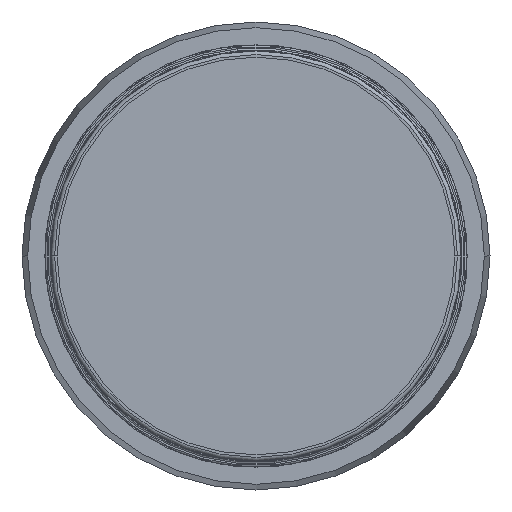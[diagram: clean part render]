
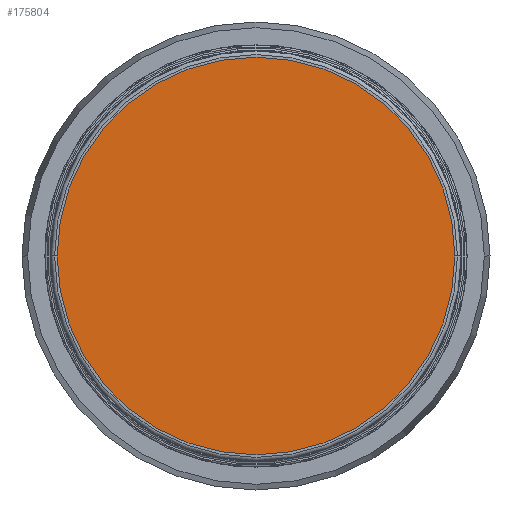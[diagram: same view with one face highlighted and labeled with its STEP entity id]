
A CAD part, front view. The second image highlights one B-rep face of the part: STEP entity #175804.
In plain terms, the highlighted planar face has unit normal (0, -1, 0).
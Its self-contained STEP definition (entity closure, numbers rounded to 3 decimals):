
#7428 = CIRCLE ( 'NONE', #112575, 522.579 ) ;
#11749 = EDGE_CURVE ( 'NONE', #134778, #73715, #124022, .T. ) ;
#43082 = DIRECTION ( 'NONE',  ( 0., -1., 0. ) ) ;
#53280 = CARTESIAN_POINT ( 'NONE',  ( 0., 0., 0. ) ) ;
#67366 = DIRECTION ( 'NONE',  ( 0., 0., 1. ) ) ;
#73715 = VERTEX_POINT ( 'NONE', #164149 ) ;
#81653 = CARTESIAN_POINT ( 'NONE',  ( 529.221, 0., -500000. ) ) ;
#89487 = ORIENTED_EDGE ( 'NONE', *, *, #174336, .T. ) ;
#95617 = DIRECTION ( 'NONE',  ( 0., 0., -1. ) ) ;
#108988 = PLANE ( 'NONE',  #156556 ) ;
#112575 = AXIS2_PLACEMENT_3D ( 'NONE', #126740, #43082, #140766 ) ;
#115753 = AXIS2_PLACEMENT_3D ( 'NONE', #53280, #150966, #67366 ) ;
#116193 = FACE_OUTER_BOUND ( 'NONE', #138624, .T. ) ;
#124022 = CIRCLE ( 'NONE', #115753, 522.579 ) ;
#126740 = CARTESIAN_POINT ( 'NONE',  ( 0., 0., 0. ) ) ;
#132742 = CARTESIAN_POINT ( 'NONE',  ( 522.579, 0., 0. ) ) ;
#133148 = ORIENTED_EDGE ( 'NONE', *, *, #11749, .T. ) ;
#134778 = VERTEX_POINT ( 'NONE', #132742 ) ;
#138624 = EDGE_LOOP ( 'NONE', ( #133148, #89487 ) ) ;
#140766 = DIRECTION ( 'NONE',  ( 0., 0., 1. ) ) ;
#150966 = DIRECTION ( 'NONE',  ( 0., -1., 0. ) ) ;
#156556 = AXIS2_PLACEMENT_3D ( 'NONE', #81653, #179140, #95617 ) ;
#164149 = CARTESIAN_POINT ( 'NONE',  ( -522.579, 0., 0. ) ) ;
#174336 = EDGE_CURVE ( 'NONE', #73715, #134778, #7428, .T. ) ;
#175804 = ADVANCED_FACE ( 'NONE', ( #116193 ), #108988, .T. ) ;
#179140 = DIRECTION ( 'NONE',  ( 0., -1., 0. ) ) ;
